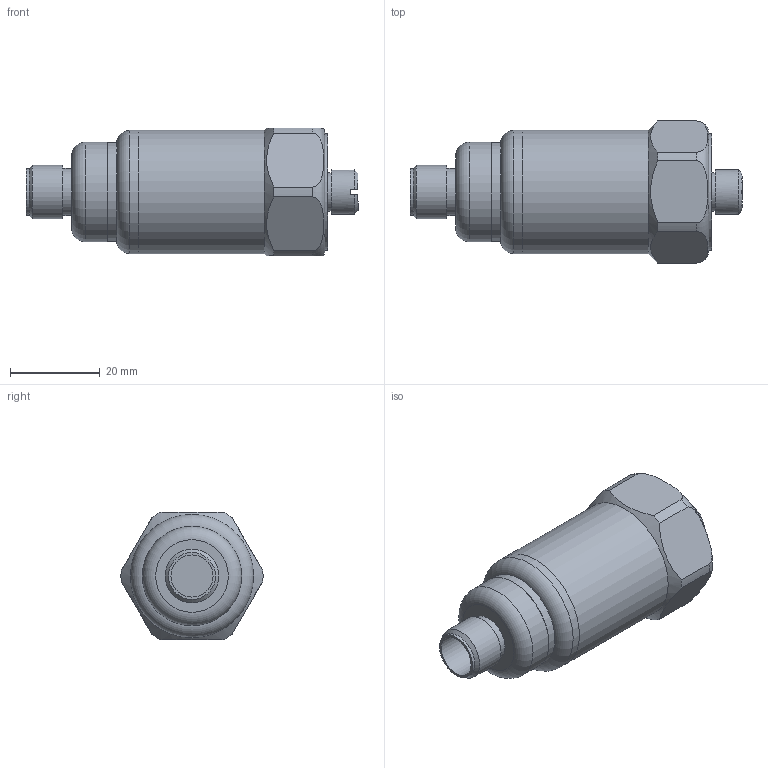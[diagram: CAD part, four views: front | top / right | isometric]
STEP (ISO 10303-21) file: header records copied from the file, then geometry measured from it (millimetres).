
FILE_DESCRIPTION(/* description */ (''),/* implementation_level */ '2;1');
FILE_NAME(/* name */ 'Z:\Engineering\Drawings\3D Library\Assemblies\Website\420 Velocity\HS-420XXX5410.stp',/* time_stamp */ '2023-05-03T13:12:50+01:00',/* author */ ('Ricardo.Peneda'),/* organization */ (''),/* preprocessor_version */ 'ST-DEVELOPER v18.1',/* originating_system */ 'Autodesk Inventor 2021',/* authorisation */ '');
FILE_SCHEMA (('AUTOMOTIVE_DESIGN { 1 0 10303 214 3 1 1 }'));
Length unit declared in the file: inch
Products named in the file (1): HS-420XXX5410_Shrinkwrap_1
Bounding box: 74.09 x 31.69 x 28.5 mm (x, y, z)
Volume: 15057.7 mm3; surface area: 12100.4 mm2
Topology: 4 solids, 4 shells, 78 faces, 203 edges, 148 vertices
Faces by surface type: plane 37, cylinder 29, cone 8, torus 4
Full cylindrical faces by diameter (mm): 5 x1, 6.3 x1, 6.35 x1, 7 x1, 7.5 x1, 8.5 x1, 9.4 x2, 10 x1, 10.496 x1, 10.5 x1, 12 x1, 18 x1, 19.95 x1, 20 x1, 22 x1, 22.2 x1, 23.3 x1, 25.3 x2, 26 x1, 27.5 x2
Entity records: 2742 total; most frequent: CARTESIAN_POINT 592, DIRECTION 465, ORIENTED_EDGE 406, AXIS2_PLACEMENT_3D 205, EDGE_CURVE 203, VERTEX_POINT 148, CIRCLE 126, EDGE_LOOP 95
